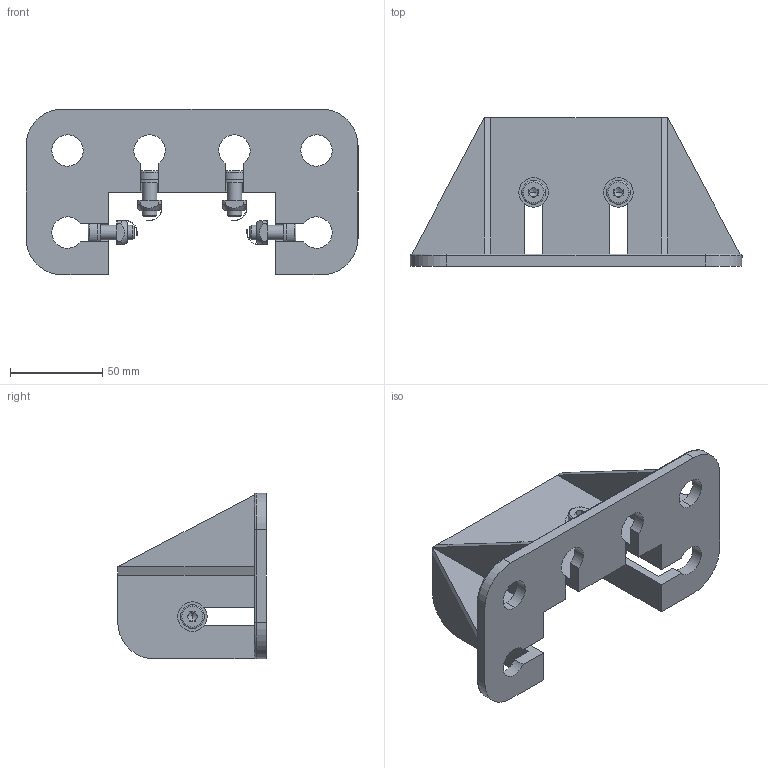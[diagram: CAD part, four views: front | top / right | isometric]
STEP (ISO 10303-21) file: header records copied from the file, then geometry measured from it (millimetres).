
FILE_DESCRIPTION (( 'STEP AP214' ), '1' );
FILE_NAME ('1.5040 Lattiakiinnike 90.STEP', '2025-09-16T09:53:45', ( '' ), ( '' ), 'SwSTEP 2.0', 'SolidWorks 2025', '' );
FILE_SCHEMA (( 'AUTOMOTIVE_DESIGN' ));
Length unit declared in the file: millimetre
Products named in the file (1): 1.5040 Lattiakiinnike 90
Bounding box: 180 x 80.5 x 90 mm (x, y, z)
Volume: 155841.6 mm3; surface area: 72986.8 mm2
Topology: 13 solids, 13 shells, 337 faces, 837 edges, 518 vertices
Faces by surface type: plane 194, cylinder 87, cone 36, torus 20
Entity records: 14159 total; most frequent: CARTESIAN_POINT 2249, DIRECTION 1691, ORIENTED_EDGE 1658, EDGE_CURVE 829, AXIS2_PLACEMENT_3D 600, VERTEX_POINT 518, LINE 491, VECTOR 491
